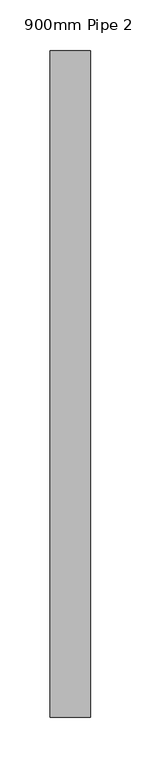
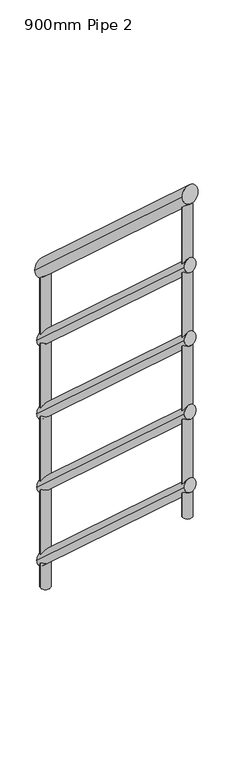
"""IFC4 building model written with IfcOpenShell, lengths in millimetres: railing geometry, 900mm Pipe 2."""

import ifcopenshell
import ifcopenshell.guid

model = None  # the IFC model being written
_history = None  # IfcOwnerHistory: only IFC2X3 demands one
_inside = {}  # id of a spatial element -> (the spatial element, [elements in it])
_under = {}  # id of a project, library or spatial element -> (it, [spatial elements below it])
_declared = {}  # id of a project -> (the project, [libraries it declares])
_typed = {}  # id of a type object -> (the type object, [elements of that type])
_made_of = {}  # id of a material, layer set ... -> (it, [elements and type objects made of it])


def new_model(schema):
    """Start an empty IFC model of exactly this schema.

    Asked for "IFC4X3", IfcOpenShell would pick the latest addendum, in which some entities
    have other attributes; the version numbers below select the first issue.
    IFC2X3 requires an IfcOwnerHistory on every rooted entity: one is made here for all.
    """
    global model, _history
    if schema == "IFC4X3":
        model = ifcopenshell.file(schema_version=(4, 3, 0, 0))
    else:
        model = ifcopenshell.file(schema=schema)
    _inside.clear()
    _under.clear()
    _declared.clear()
    _typed.clear()
    _made_of.clear()
    _history = None
    if model.schema == "IFC2X3":
        org = make("IfcOrganization", Name="unknown")
        user = make(
            "IfcPersonAndOrganization",
            ThePerson=make("IfcPerson", FamilyName="unknown"),
            TheOrganization=org,
        )
        app = make(
            "IfcApplication",
            ApplicationDeveloper=org,
            Version="unknown",
            ApplicationFullName="unknown",
            ApplicationIdentifier="unknown",
        )
        _history = make(
            "IfcOwnerHistory",
            OwningUser=user,
            OwningApplication=app,
            ChangeAction="ADDED",
            CreationDate=0,
        )
    return model


def make(cls, **values):
    """One entity of the class cls with the attributes given. An attribute that is None is left unset."""
    return model.create_entity(
        cls, **{name: value for name, value in values.items() if value is not None}
    )


def rooted(cls, **values):
    """An entity with a GlobalId (a new one), such as an element, a storey or a relation."""
    return make(cls, GlobalId=ifcopenshell.guid.new(), OwnerHistory=_history, **values)


def si_unit(unit_type, name, prefix=None):
    """IfcSIUnit, for example si_unit("LENGTHUNIT", "METRE", prefix="MILLI")."""
    return make("IfcSIUnit", UnitType=unit_type, Prefix=prefix, Name=name)


def assignment(units):
    """IfcUnitAssignment: the units of a project."""
    return None if units is None else make("IfcUnitAssignment", Units=units)


def point(xyz):
    """IfcCartesianPoint."""
    return None if xyz is None else make("IfcCartesianPoint", Coordinates=xyz)


def direction(xyz):
    """IfcDirection."""
    return None if xyz is None else make("IfcDirection", DirectionRatios=xyz)


def frame(location, z_axis=None, x_axis=None):
    """IfcAxis2Placement3D, a coordinate frame: its origin and axes. An axis left out is left unset."""
    return make(
        "IfcAxis2Placement3D",
        Location=point(location),
        Axis=direction(z_axis),
        RefDirection=direction(x_axis),
    )


def origin():
    """The frame at (0, 0, 0) with its axes left unset."""
    return frame((0.0, 0.0, 0.0))


def place(relative_to, where):
    """IfcLocalPlacement: puts the frame where relative to a parent placement (None: the world)."""
    return make(
        "IfcLocalPlacement", PlacementRelTo=relative_to, RelativePlacement=where
    )


def context(
    kind, dimensions, precision=None, world=None, true_north=None, identifier=None
):
    """IfcGeometricRepresentationContext, for example the 3D "Model" context."""
    return make(
        "IfcGeometricRepresentationContext",
        ContextIdentifier=identifier,
        ContextType=kind,
        CoordinateSpaceDimension=dimensions,
        Precision=precision,
        WorldCoordinateSystem=world,
        TrueNorth=true_north,
    )


def project(units=None, contexts=None):
    """IfcProject with its units and contexts."""
    return rooted(
        "IfcProject",
        Name="project",
        RepresentationContexts=contexts,
        UnitsInContext=assignment(units),
    )


def spatial(cls, under=None, at=None, **own):
    """A site, building, storey or space (cls), placed at a placement, below another one or the project."""
    s = rooted(cls, ObjectPlacement=at, **own)
    if under is not None:
        _under.setdefault(under.id(), (under, []))[1].append(s)
    return s


def circle_curve(where, radius):
    """IfcCircle in the frame where."""
    return make("IfcCircle", Position=where, Radius=radius)


def ellipse_curve(where, semi_axis1, semi_axis2):
    """IfcEllipse in the frame where."""
    return make(
        "IfcEllipse", Position=where, SemiAxis1=semi_axis1, SemiAxis2=semi_axis2
    )


def shape(context_of_items, identifier, shape_type, items):
    """IfcShapeRepresentation: the items that make up one representation, for example the "Body"."""
    return make(
        "IfcShapeRepresentation",
        ContextOfItems=context_of_items,
        RepresentationIdentifier=identifier,
        RepresentationType=shape_type,
        Items=items,
    )


def source(mapping_origin, context_of_items, identifier, shape_type, items):
    """IfcRepresentationMap: a shape defined once, which mapped items show again and again."""
    return make(
        "IfcRepresentationMap",
        MappingOrigin=mapping_origin,
        MappedRepresentation=shape(context_of_items, identifier, shape_type, items),
    )


def transform(
    local_origin,
    x_axis=None,
    y_axis=None,
    z_axis=None,
    scale=None,
    scale2=None,
    scale3=None,
    uniform=True,
):
    """IfcCartesianTransformationOperator3D, or its non-uniform kind. x_axis, y_axis, z_axis: its Axis1, 2, 3."""
    if uniform:
        return make(
            "IfcCartesianTransformationOperator3D",
            Axis1=direction(x_axis),
            Axis2=direction(y_axis),
            LocalOrigin=point(local_origin),
            Scale=scale,
            Axis3=direction(z_axis),
        )
    return make(
        "IfcCartesianTransformationOperator3DnonUniform",
        Axis1=direction(x_axis),
        Axis2=direction(y_axis),
        LocalOrigin=point(local_origin),
        Scale=scale,
        Axis3=direction(z_axis),
        Scale2=scale2,
        Scale3=scale3,
    )


def mapped(mapping_source, mapping_target):
    """IfcMappedItem: shows the shape of a source again, moved by a transform."""
    return make(
        "IfcMappedItem", MappingSource=mapping_source, MappingTarget=mapping_target
    )


def made_of(thing, what):
    """Note that an element or type object is made of a material, layer set ...; save() writes the relation."""
    if what is not None:
        _made_of.setdefault(what.id(), (what, []))[1].append(thing)
    return thing


def element(
    cls,
    number,
    at=None,
    inside=None,
    cuts=None,
    type_object=None,
    material=None,
    context=None,
    identifier="Body",
    shape_type=None,
    held_by="IfcProductDefinitionShape",
    body=None,
    shapes=None,
    **own,
):
    """One element of the class cls, such as IfcWall. Its Tag is "e" and its number.

    at: its placement. inside: the storey or other place that contains it. cuts: it is an
    opening in that element (IfcRelVoidsElement). A single representation is given by context,
    identifier, shape_type and body (its items); several are given by shapes. held_by: the class
    of the entity that holds the representations. save() writes the other relations.
    """
    e = rooted(cls, Tag="e%d" % number, ObjectPlacement=at, **own)
    if body is not None:
        shapes = [shape(context, identifier, shape_type, body)]
    if shapes is not None:
        e.Representation = make(held_by, Representations=shapes)
    if inside is not None:
        _inside.setdefault(inside.id(), (inside, []))[1].append(e)
    if cuts is not None:
        rooted(
            "IfcRelVoidsElement", RelatingBuildingElement=cuts, RelatedOpeningElement=e
        )
    if type_object is not None:
        _typed.setdefault(type_object.id(), (type_object, []))[1].append(e)
    return made_of(e, material)


def aggregate(whole, parts):
    """IfcRelAggregates: a whole, such as a stair, and the parts it consists of."""
    return rooted("IfcRelAggregates", RelatingObject=whole, RelatedObjects=parts)


def save(model, path):
    """Write the relations noted so far, then the file.

    IfcRelAggregates (storeys below a building ...), IfcRelContainedInSpatialStructure (elements
    in a storey), IfcRelDefinesByType, IfcRelAssociatesMaterial and IfcRelDeclares: one each for
    every whole, place, type object, material and project.
    """
    for whole, parts in _under.values():
        aggregate(whole, parts)
    for where, things in _inside.values():
        rooted(
            "IfcRelContainedInSpatialStructure",
            RelatedElements=things,
            RelatingStructure=where,
        )
    for kind, things in _typed.values():
        rooted("IfcRelDefinesByType", RelatedObjects=things, RelatingType=kind)
    for what, things in _made_of.values():
        rooted("IfcRelAssociatesMaterial", RelatedObjects=things, RelatingMaterial=what)
    for by, libraries in _declared.values():
        rooted("IfcRelDeclares", RelatingContext=by, RelatedDefinitions=libraries)
    model.write(path)


def plane_surface(at):
    """IfcPlane: the flat surface through the origin of the frame at, square to its z axis."""
    return make("IfcPlane", Position=at)


def cylinder_surface(at, radius):
    """IfcCylindricalSurface: all points at the distance radius from the z axis of the frame at."""
    return make("IfcCylindricalSurface", Position=at, Radius=radius)


def advanced_brep(points, edges, surfaces, faces):
    """IfcAdvancedBrep: a solid bounded by faces that lie on surfaces and meet in shared edges.

    An edge is (start, end): straight between two places in points (the first is 0);
    or (start, end, curve); or (start, end, curve, False) where it runs against its curve.
    A face is (place in surfaces, loops), or (place, loops, False) where it looks against
    its surface's normal. A loop lists edges by number (the first is 1), with a minus sign
    where the edge is run from its end to its start. The first loop is the outer one.
    """
    corners = [point(p) for p in points]
    vertices = [make("IfcVertexPoint", VertexGeometry=c) for c in corners]
    made = []
    for start, end, *more in edges:
        made.append(
            make(
                "IfcEdgeCurve",
                EdgeStart=vertices[start],
                EdgeEnd=vertices[end],
                EdgeGeometry=more[0] if more else make("IfcPolyline", Points=[corners[start], corners[end]]),
                SameSense=more[1] if len(more) > 1 else True,
            )
        )
    hull = []
    for where, loops, *sense in faces:
        bounds = []
        for j, loop in enumerate(loops):
            ring = [make("IfcOrientedEdge", EdgeElement=made[abs(k) - 1], Orientation=k > 0) for k in loop]
            bounds.append(
                make(
                    "IfcFaceOuterBound" if j == 0 else "IfcFaceBound",
                    Bound=make("IfcEdgeLoop", EdgeList=ring),
                    Orientation=True,
                )
            )
        hull.append(make("IfcAdvancedFace", Bounds=bounds, FaceSurface=surfaces[where], SameSense=sense[0] if sense else True))
    return make("IfcAdvancedBrep", Outer=make("IfcClosedShell", CfsFaces=hull))


def railing_900mm_pipe_2_317fbd75(model_context):
    return source(origin(), model_context, "Body", "AdvancedBrep", [
        advanced_brep(
        [(-3561.8266822, 6973.2328473, 272.9707841), (-3521.8266822, 6973.2328473, 272.9707841), (-3561.8266822, 6313.2328473, 872.9707841), (-3521.8266822, 6313.2328473, 872.9707841)],
        [
            (0, 1, ellipse_curve(frame((-3541.8266822, 6973.2328473, 272.9707841), z_axis=(0.0, 1.0, 0.0), x_axis=(0.0, 0.0, -1.0)), 27.0292159, 20.0)),
            (1, 0, ellipse_curve(frame((-3541.8266822, 6973.2328473, 272.9707841), z_axis=(0.0, 1.0, 0.0), x_axis=(0.0, 0.0, -1.0)), 27.0292159, 20.0)),
            (2, 3, ellipse_curve(frame((-3541.8266822, 6313.2328473, 872.9707841), z_axis=(0.0, -1.0, 0.0), x_axis=(0.0, 0.0, -1.0)), 27.0292159, 20.0)),
            (3, 2, ellipse_curve(frame((-3541.8266822, 6313.2328473, 872.9707841), z_axis=(0.0, -1.0, 0.0), x_axis=(0.0, 0.0, -1.0)), 27.0292159, 20.0)),
            (0, 2),
            (3, 1),
        ],
        [
            plane_surface(frame((-3541.8266822, 6973.2328473, 300.0), z_axis=(0.0, 1.0, 0.0), x_axis=(0.0, 0.0, -1.0))),
            plane_surface(frame((-3541.8266822, 6313.2328473, 900.0), z_axis=(0.0, -1.0, 0.0), x_axis=(0.0, 0.0, -1.0))),
            cylinder_surface(frame((-3541.8266822, 6959.7793914, 285.2011985), z_axis=(0.0, 0.7399400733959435, -0.6726727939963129), x_axis=(1.0, 0.0, 0.0)), 20.0),
        ],
        [
            (0, [[1, 2]]),
            (1, [[3, 4]]),
            (2, [[-1, 5, -4, 6]]),
            (2, [[-2, -6, -3, -5]]),
        ],
    ),
        advanced_brep(
        [(-3556.8266822, 6973.2328473, 79.7280881), (-3526.8266822, 6973.2328473, 79.7280881), (-3556.8266822, 6313.2328473, 679.7280881), (-3526.8266822, 6313.2328473, 679.7280881)],
        [
            (0, 1, ellipse_curve(frame((-3541.8266822, 6973.2328473, 79.7280881), z_axis=(0.0, 1.0, 0.0), x_axis=(0.0, 0.0, -1.0)), 20.2719119, 15.0)),
            (1, 0, ellipse_curve(frame((-3541.8266822, 6973.2328473, 79.7280881), z_axis=(0.0, 1.0, 0.0), x_axis=(0.0, 0.0, -1.0)), 20.2719119, 15.0)),
            (2, 3, ellipse_curve(frame((-3541.8266822, 6313.2328473, 679.7280881), z_axis=(0.0, -1.0, 0.0), x_axis=(0.0, 0.0, -1.0)), 20.2719119, 15.0)),
            (3, 2, ellipse_curve(frame((-3541.8266822, 6313.2328473, 679.7280881), z_axis=(0.0, -1.0, 0.0), x_axis=(0.0, 0.0, -1.0)), 20.2719119, 15.0)),
            (0, 2),
            (3, 1),
        ],
        [
            plane_surface(frame((-3541.8266822, 6973.2328473, 100.0), z_axis=(0.0, 1.0, 0.0), x_axis=(0.0, 0.0, -1.0))),
            plane_surface(frame((-3541.8266822, 6313.2328473, 700.0), z_axis=(0.0, -1.0, 0.0), x_axis=(0.0, 0.0, -1.0))),
            cylinder_surface(frame((-3541.8266822, 6963.1427553, 88.9008989), z_axis=(0.0, 0.7399400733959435, -0.6726727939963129), x_axis=(1.0, 0.0, 0.0)), 15.0),
        ],
        [
            (0, [[1, 2]]),
            (1, [[3, 4]]),
            (2, [[-1, 5, -4, 6]]),
            (2, [[-2, -6, -3, -5]]),
        ],
    ),
        advanced_brep(
        [(-3556.8266822, 6973.2328473, -120.2719119), (-3526.8266822, 6973.2328473, -120.2719119), (-3556.8266822, 6313.2328473, 479.7280881), (-3526.8266822, 6313.2328473, 479.7280881)],
        [
            (0, 1, ellipse_curve(frame((-3541.8266822, 6973.2328473, -120.2719119), z_axis=(0.0, 1.0, 0.0), x_axis=(0.0, 0.0, -1.0)), 20.2719119, 15.0)),
            (1, 0, ellipse_curve(frame((-3541.8266822, 6973.2328473, -120.2719119), z_axis=(0.0, 1.0, 0.0), x_axis=(0.0, 0.0, -1.0)), 20.2719119, 15.0)),
            (2, 3, ellipse_curve(frame((-3541.8266822, 6313.2328473, 479.7280881), z_axis=(0.0, -1.0, 0.0), x_axis=(0.0, 0.0, -1.0)), 20.2719119, 15.0)),
            (3, 2, ellipse_curve(frame((-3541.8266822, 6313.2328473, 479.7280881), z_axis=(0.0, -1.0, 0.0), x_axis=(0.0, 0.0, -1.0)), 20.2719119, 15.0)),
            (0, 2),
            (3, 1),
        ],
        [
            plane_surface(frame((-3541.8266822, 6973.2328473, -100.0), z_axis=(0.0, 1.0, 0.0), x_axis=(0.0, 0.0, -1.0))),
            plane_surface(frame((-3541.8266822, 6313.2328473, 500.0), z_axis=(0.0, -1.0, 0.0), x_axis=(0.0, 0.0, -1.0))),
            cylinder_surface(frame((-3541.8266822, 6963.1427553, -111.0991011), z_axis=(0.0, 0.7399400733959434, -0.6726727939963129), x_axis=(1.0, 0.0, 0.0)), 15.0),
        ],
        [
            (0, [[1, 2]]),
            (1, [[3, 4]]),
            (2, [[-1, 5, -4, 6]]),
            (2, [[-2, -6, -3, -5]]),
        ],
    ),
        advanced_brep(
        [(-3556.8266822, 6973.2328473, -320.2719119), (-3526.8266822, 6973.2328473, -320.2719119), (-3556.8266822, 6313.2328473, 279.7280881), (-3526.8266822, 6313.2328473, 279.7280881)],
        [
            (0, 1, ellipse_curve(frame((-3541.8266822, 6973.2328473, -320.2719119), z_axis=(0.0, 1.0, 0.0), x_axis=(0.0, 0.0, -1.0)), 20.2719119, 15.0)),
            (1, 0, ellipse_curve(frame((-3541.8266822, 6973.2328473, -320.2719119), z_axis=(0.0, 1.0, 0.0), x_axis=(0.0, 0.0, -1.0)), 20.2719119, 15.0)),
            (2, 3, ellipse_curve(frame((-3541.8266822, 6313.2328473, 279.7280881), z_axis=(0.0, -1.0, 0.0), x_axis=(0.0, 0.0, -1.0)), 20.2719119, 15.0)),
            (3, 2, ellipse_curve(frame((-3541.8266822, 6313.2328473, 279.7280881), z_axis=(0.0, -1.0, 0.0), x_axis=(0.0, 0.0, -1.0)), 20.2719119, 15.0)),
            (0, 2),
            (3, 1),
        ],
        [
            plane_surface(frame((-3541.8266822, 6973.2328473, -300.0), z_axis=(0.0, 1.0, 0.0), x_axis=(0.0, 0.0, -1.0))),
            plane_surface(frame((-3541.8266822, 6313.2328473, 300.0), z_axis=(0.0, -1.0, 0.0), x_axis=(0.0, 0.0, -1.0))),
            cylinder_surface(frame((-3541.8266822, 6963.1427553, -311.0991011), z_axis=(0.0, 0.7399400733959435, -0.6726727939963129), x_axis=(1.0, 0.0, 0.0)), 15.0),
        ],
        [
            (0, [[1, 2]]),
            (1, [[3, 4]]),
            (2, [[-1, 5, -4, 6]]),
            (2, [[-2, -6, -3, -5]]),
        ],
    ),
        advanced_brep(
        [(-3556.8266822, 6973.2328473, -520.2719119), (-3526.8266822, 6973.2328473, -520.2719119), (-3556.8266822, 6313.2328473, 79.7280881), (-3526.8266822, 6313.2328473, 79.7280881)],
        [
            (0, 1, ellipse_curve(frame((-3541.8266822, 6973.2328473, -520.2719119), z_axis=(0.0, 1.0, 0.0), x_axis=(0.0, 0.0, -1.0)), 20.2719119, 15.0)),
            (1, 0, ellipse_curve(frame((-3541.8266822, 6973.2328473, -520.2719119), z_axis=(0.0, 1.0, 0.0), x_axis=(0.0, 0.0, -1.0)), 20.2719119, 15.0)),
            (2, 3, ellipse_curve(frame((-3541.8266822, 6313.2328473, 79.7280881), z_axis=(0.0, -1.0, 0.0), x_axis=(0.0, 0.0, -1.0)), 20.2719119, 15.0)),
            (3, 2, ellipse_curve(frame((-3541.8266822, 6313.2328473, 79.7280881), z_axis=(0.0, -1.0, 0.0), x_axis=(0.0, 0.0, -1.0)), 20.2719119, 15.0)),
            (0, 2),
            (3, 1),
        ],
        [
            plane_surface(frame((-3541.8266822, 6973.2328473, -500.0), z_axis=(0.0, 1.0, 0.0), x_axis=(0.0, 0.0, -1.0))),
            plane_surface(frame((-3541.8266822, 6313.2328473, 100.0), z_axis=(0.0, -1.0, 0.0), x_axis=(0.0, 0.0, -1.0))),
            cylinder_surface(frame((-3541.8266822, 6963.1427553, -511.0991011), z_axis=(0.0, 0.7399400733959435, -0.6726727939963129), x_axis=(1.0, 0.0, 0.0)), 15.0),
        ],
        [
            (0, [[1, 2]]),
            (1, [[3, 4]]),
            (2, [[-1, 5, -4, 6]]),
            (2, [[-2, -6, -3, -5]]),
        ],
    ),
        advanced_brep(
        [(-3529.3266822, 6325.4194462, -11.0787263), (-3554.3266822, 6325.4194462, -11.0787263), (-3529.3266822, 6325.4194462, 834.8628419), (-3554.3266822, 6325.4194462, 834.8628419)],
        [
            (0, 1, circle_curve(frame((-3541.8266822, 6325.4194462, -11.0787263), z_axis=(0.0, 0.0, -1.0), x_axis=(-1.0, 0.0, 0.0)), 12.5)),
            (1, 0, circle_curve(frame((-3541.8266822, 6325.4194462, -11.0787263), z_axis=(0.0, 0.0, -1.0), x_axis=(-1.0, 0.0, 0.0)), 12.5)),
            (0, 2),
            (2, 3, ellipse_curve(frame((-3541.8266822, 6325.4194462, 834.8628419), z_axis=(0.0, -0.6726727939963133, -0.7399400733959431), x_axis=(0.0, -0.7399400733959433, 0.6726727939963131)), 16.8932599, 12.5)),
            (3, 1),
            (3, 2, ellipse_curve(frame((-3541.8266822, 6325.4194462, 834.8628419), z_axis=(0.0, -0.6726727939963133, -0.7399400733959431), x_axis=(0.0, -0.7399400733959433, 0.6726727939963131)), 16.8932599, 12.5)),
        ],
        [
            plane_surface(frame((-3554.3266822, 6325.4194462, -11.0787263), z_axis=(0.0, 0.0, -1.0), x_axis=(0.0, -1.0, 0.0))),
            cylinder_surface(frame((-3541.8266822, 6325.4194462, -11.0787263), z_axis=(0.0, 0.0, 1.0), x_axis=(-1.0, 0.0, 0.0)), 12.5),
            plane_surface(frame((-3589.0525121, 6285.0592578, 871.5539222), z_axis=(0.0, 0.6726727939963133, 0.7399400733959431), x_axis=(1.0, 0.0, 0.0))),
        ],
        [
            (0, [[1, 2]]),
            (1, [[3, 4, 5, -1]]),
            (1, [[-5, 6, -3, -2]]),
            (2, [[-6, -4]]),
        ],
    ),
        advanced_brep(
        [(-3529.3266822, 6961.0462484, -588.9212737), (-3554.3266822, 6961.0462484, -588.9212737), (-3529.3266822, 6961.0462484, 257.0202945), (-3554.3266822, 6961.0462484, 257.0202945)],
        [
            (0, 1, circle_curve(frame((-3541.8266822, 6961.0462484, -588.9212737), z_axis=(0.0, 0.0, -1.0), x_axis=(-1.0, 0.0, 0.0)), 12.5)),
            (1, 0, circle_curve(frame((-3541.8266822, 6961.0462484, -588.9212737), z_axis=(0.0, 0.0, -1.0), x_axis=(-1.0, 0.0, 0.0)), 12.5)),
            (0, 2),
            (2, 3, ellipse_curve(frame((-3541.8266822, 6961.0462484, 257.0202945), z_axis=(0.0, -0.6726727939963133, -0.7399400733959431), x_axis=(0.0, -0.7399400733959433, 0.6726727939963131)), 16.8932599, 12.5)),
            (3, 1),
            (3, 2, ellipse_curve(frame((-3541.8266822, 6961.0462484, 257.0202945), z_axis=(0.0, -0.6726727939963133, -0.7399400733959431), x_axis=(0.0, -0.7399400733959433, 0.6726727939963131)), 16.8932599, 12.5)),
        ],
        [
            plane_surface(frame((-3554.3266822, 6961.0462484, -588.9212737), z_axis=(0.0, 0.0, -1.0), x_axis=(0.0, -1.0, 0.0))),
            cylinder_surface(frame((-3541.8266822, 6961.0462484, -588.9212737), z_axis=(0.0, 0.0, 1.0), x_axis=(-1.0, 0.0, 0.0)), 12.5),
            plane_surface(frame((-3589.0525121, 6920.68606, 293.7113748), z_axis=(0.0, 0.6726727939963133, 0.7399400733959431), x_axis=(1.0, 0.0, 0.0))),
        ],
        [
            (0, [[1, 2]]),
            (1, [[3, 4, 5, -1]]),
            (1, [[-5, 6, -3, -2]]),
            (2, [[-6, -4]]),
        ],
    ),
    ])


if __name__ == "__main__":
    model = new_model("IFC4")
    model_context = context("Model", 3, world=origin())
    ifc_project = project(units=[si_unit("LENGTHUNIT", "METRE", prefix="MILLI")], contexts=[model_context])
    site = spatial("IfcSite", under=ifc_project)
    building = spatial("IfcBuilding", under=site)
    placement = place(None, origin())
    railing_900mm_pipe_2_shape = railing_900mm_pipe_2_317fbd75(model_context)
    element("IfcRailing", 1, ObjectType="900mm Pipe 2", at=placement, inside=building, context=model_context, shape_type="MappedRepresentation", body=[
        mapped(railing_900mm_pipe_2_shape, transform((0.0, 0.0, 0.0), x_axis=(1.0, 0.0, 0.0), y_axis=(0.0, 1.0, 0.0), z_axis=(0.0, 0.0, 1.0))),
    ])
    save(model, "model.ifc")
